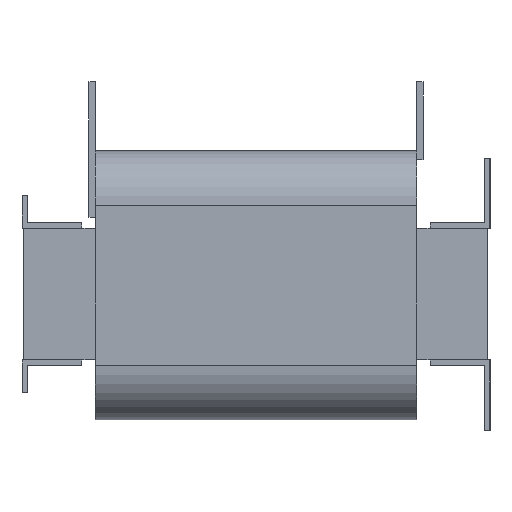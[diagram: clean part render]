
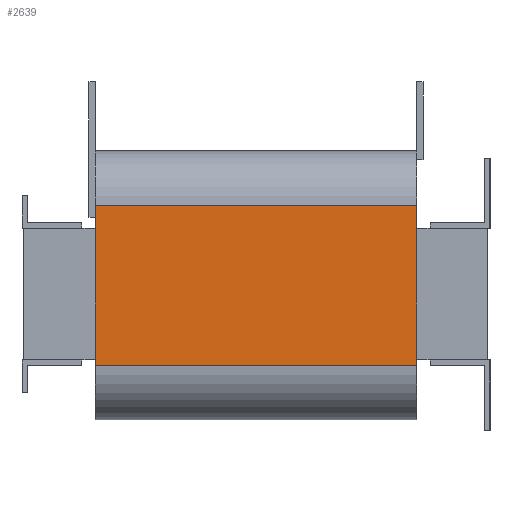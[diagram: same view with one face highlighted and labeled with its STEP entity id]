
A CAD part, left-side view. The second image highlights one B-rep face of the part: STEP entity #2639.
In plain terms, the highlighted planar face has unit normal (-1, 0, 0).
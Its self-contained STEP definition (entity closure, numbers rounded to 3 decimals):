
#114=PLANE('',#2843);
#243=FACE_OUTER_BOUND('',#393,.T.);
#393=EDGE_LOOP('',(#2263,#2264,#2265,#2266));
#670=LINE('',#4142,#996);
#689=LINE('',#4192,#1015);
#690=LINE('',#4195,#1016);
#691=LINE('',#4196,#1017);
#996=VECTOR('',#3383,10.);
#1015=VECTOR('',#3428,10.);
#1016=VECTOR('',#3431,10.);
#1017=VECTOR('',#3432,10.);
#1325=VERTEX_POINT('',#4139);
#1326=VERTEX_POINT('',#4141);
#1344=VERTEX_POINT('',#4190);
#1345=VERTEX_POINT('',#4194);
#1652=EDGE_CURVE('',#1325,#1326,#670,.T.);
#1678=EDGE_CURVE('',#1344,#1325,#689,.T.);
#1679=EDGE_CURVE('',#1344,#1345,#690,.T.);
#1680=EDGE_CURVE('',#1326,#1345,#691,.T.);
#2263=ORIENTED_EDGE('',*,*,#1678,.F.);
#2264=ORIENTED_EDGE('',*,*,#1679,.T.);
#2265=ORIENTED_EDGE('',*,*,#1680,.F.);
#2266=ORIENTED_EDGE('',*,*,#1652,.F.);
#2639=ADVANCED_FACE('',(#243),#114,.T.);
#2843=AXIS2_PLACEMENT_3D('',#4193,#3429,#3430);
#3383=DIRECTION('',(0.,0.,1.));
#3428=DIRECTION('',(0.,1.,0.));
#3429=DIRECTION('center_axis',(-1.,0.,0.));
#3430=DIRECTION('ref_axis',(0.,0.,1.));
#3431=DIRECTION('',(0.,0.,1.));
#3432=DIRECTION('',(0.,-1.,0.));
#4139=CARTESIAN_POINT('',(-280.,362.5,-65.5));
#4141=CARTESIAN_POINT('',(-280.,362.5,81.5));
#4142=CARTESIAN_POINT('',(-280.,362.5,-115.5));
#4190=CARTESIAN_POINT('',(-280.,67.5,-65.5));
#4192=CARTESIAN_POINT('',(-280.,67.5,-65.5));
#4193=CARTESIAN_POINT('Origin',(-280.,67.5,-115.5));
#4194=CARTESIAN_POINT('',(-280.,67.5,81.5));
#4195=CARTESIAN_POINT('',(-280.,67.5,-115.5));
#4196=CARTESIAN_POINT('',(-280.,67.5,81.5));
